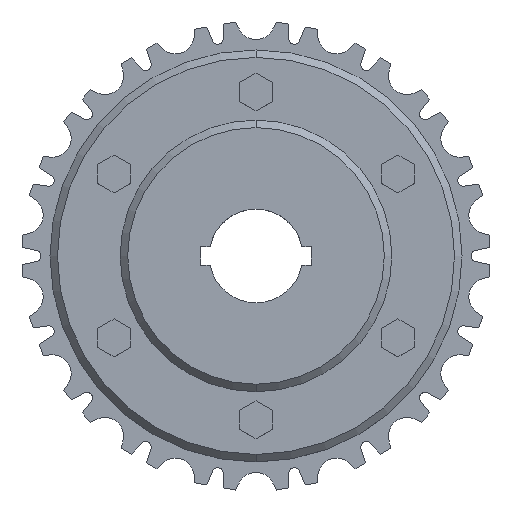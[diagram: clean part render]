
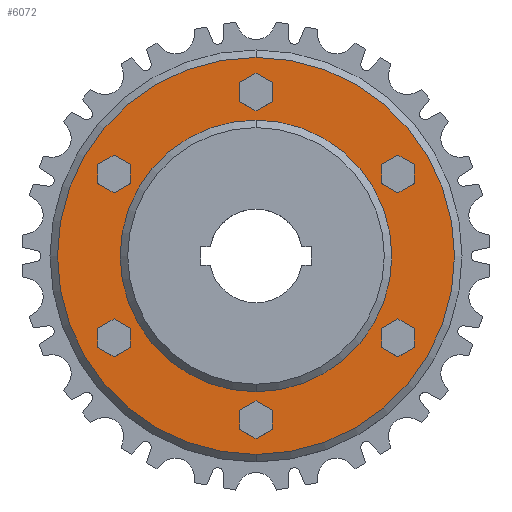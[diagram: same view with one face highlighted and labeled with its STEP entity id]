
A CAD part, top view. The second image highlights one B-rep face of the part: STEP entity #6072.
In plain terms, the highlighted planar face has unit normal (0, 0, 1) as drawn and (0, 1, 0) by its records, which use the part's own axes.
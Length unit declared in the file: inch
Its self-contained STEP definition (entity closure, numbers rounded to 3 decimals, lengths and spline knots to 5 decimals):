
#5568=CARTESIAN_POINT('',(0.,0.095,0.));
#5569=DIRECTION('',(0.,1.,0.));
#5570=DIRECTION('',(1.,0.,0.));
#5571=AXIS2_PLACEMENT_3D('',#5568,#5569,#5570);
#5578=CARTESIAN_POINT('',(0.,0.095,0.));
#5579=DIRECTION('',(0.,-1.,0.));
#5580=DIRECTION('',(1.,0.,0.));
#5581=AXIS2_PLACEMENT_3D('',#5578,#5579,#5580);
#5583=CARTESIAN_POINT('',(0.,0.095,0.));
#5584=DIRECTION('',(0.,-1.,0.));
#5585=DIRECTION('',(-1.,0.,0.));
#5586=AXIS2_PLACEMENT_3D('',#5583,#5584,#5585);
#5588=CARTESIAN_POINT('',(-2.188,0.095,0.));
#5589=DIRECTION('',(0.,-1.,0.));
#5590=DIRECTION('',(1.,0.,0.));
#5591=AXIS2_PLACEMENT_3D('',#5588,#5589,#5590);
#5593=CARTESIAN_POINT('',(-2.188,0.095,0.));
#5594=DIRECTION('',(0.,-1.,0.));
#5595=DIRECTION('',(-1.,0.,0.));
#5596=AXIS2_PLACEMENT_3D('',#5593,#5594,#5595);
#5598=CARTESIAN_POINT('',(-1.094,0.095,-1.89486));
#5599=DIRECTION('',(0.,-1.,0.));
#5600=DIRECTION('',(0.5,0.,0.866));
#5601=AXIS2_PLACEMENT_3D('',#5598,#5599,#5600);
#5603=CARTESIAN_POINT('',(-1.094,0.095,-1.89486));
#5604=DIRECTION('',(0.,-1.,0.));
#5605=DIRECTION('',(-0.5,0.,-0.866));
#5606=AXIS2_PLACEMENT_3D('',#5603,#5604,#5605);
#5608=CARTESIAN_POINT('',(1.094,0.095,-1.89486));
#5609=DIRECTION('',(0.,-1.,0.));
#5610=DIRECTION('',(-0.5,0.,0.866));
#5611=AXIS2_PLACEMENT_3D('',#5608,#5609,#5610);
#5613=CARTESIAN_POINT('',(1.094,0.095,-1.89486));
#5614=DIRECTION('',(0.,-1.,0.));
#5615=DIRECTION('',(0.5,0.,-0.866));
#5616=AXIS2_PLACEMENT_3D('',#5613,#5614,#5615);
#5618=CARTESIAN_POINT('',(2.188,0.095,0.));
#5619=DIRECTION('',(0.,-1.,0.));
#5620=DIRECTION('',(-1.,0.,0.));
#5621=AXIS2_PLACEMENT_3D('',#5618,#5619,#5620);
#5623=CARTESIAN_POINT('',(2.188,0.095,0.));
#5624=DIRECTION('',(0.,-1.,0.));
#5625=DIRECTION('',(1.,0.,0.));
#5626=AXIS2_PLACEMENT_3D('',#5623,#5624,#5625);
#5628=CARTESIAN_POINT('',(1.094,0.095,1.89486));
#5629=DIRECTION('',(0.,-1.,0.));
#5630=DIRECTION('',(-0.5,0.,-0.866));
#5631=AXIS2_PLACEMENT_3D('',#5628,#5629,#5630);
#5633=CARTESIAN_POINT('',(1.094,0.095,1.89486));
#5634=DIRECTION('',(0.,-1.,0.));
#5635=DIRECTION('',(0.5,0.,0.866));
#5636=AXIS2_PLACEMENT_3D('',#5633,#5634,#5635);
#5638=CARTESIAN_POINT('',(-1.094,0.095,1.89486));
#5639=DIRECTION('',(0.,-1.,0.));
#5640=DIRECTION('',(0.5,0.,-0.866));
#5641=AXIS2_PLACEMENT_3D('',#5638,#5639,#5640);
#5643=CARTESIAN_POINT('',(-1.094,0.095,1.89486));
#5644=DIRECTION('',(0.,-1.,0.));
#5645=DIRECTION('',(-0.5,0.,0.866));
#5646=AXIS2_PLACEMENT_3D('',#5643,#5644,#5645);
#5750=CARTESIAN_POINT('',(0.,0.095,0.));
#5751=DIRECTION('',(0.,1.,0.));
#5752=DIRECTION('',(-1.,0.,0.));
#5753=AXIS2_PLACEMENT_3D('',#5750,#5751,#5752);
#5824=CARTESIAN_POINT('',(1.813,0.095,0.));
#5825=CARTESIAN_POINT('',(-1.813,0.095,0.));
#5826=VERTEX_POINT('',#5824);
#5827=VERTEX_POINT('',#5825);
#5828=CARTESIAN_POINT('',(2.65,0.095,0.));
#5829=CARTESIAN_POINT('',(-2.65,0.095,0.));
#5830=VERTEX_POINT('',#5828);
#5831=VERTEX_POINT('',#5829);
#5840=CARTESIAN_POINT('',(-2.061,0.095,0.));
#5841=CARTESIAN_POINT('',(-2.315,0.095,0.));
#5842=VERTEX_POINT('',#5840);
#5843=VERTEX_POINT('',#5841);
#5872=CARTESIAN_POINT('',(-1.0305,0.095,-1.78488));
#5873=CARTESIAN_POINT('',(-1.1575,0.095,-2.00485));
#5874=VERTEX_POINT('',#5872);
#5875=VERTEX_POINT('',#5873);
#5876=CARTESIAN_POINT('',(1.0305,0.095,-1.78488));
#5877=CARTESIAN_POINT('',(1.1575,0.095,-2.00485));
#5878=VERTEX_POINT('',#5876);
#5879=VERTEX_POINT('',#5877);
#5880=CARTESIAN_POINT('',(2.061,0.095,0.));
#5881=CARTESIAN_POINT('',(2.315,0.095,0.));
#5882=VERTEX_POINT('',#5880);
#5883=VERTEX_POINT('',#5881);
#5884=CARTESIAN_POINT('',(1.0305,0.095,1.78488));
#5885=CARTESIAN_POINT('',(1.1575,0.095,2.00485));
#5886=VERTEX_POINT('',#5884);
#5887=VERTEX_POINT('',#5885);
#5888=CARTESIAN_POINT('',(-1.0305,0.095,1.78488));
#5889=CARTESIAN_POINT('',(-1.1575,0.095,2.00485));
#5890=VERTEX_POINT('',#5888);
#5891=VERTEX_POINT('',#5889);
#6020=CARTESIAN_POINT('',(0.,0.095,0.));
#6021=DIRECTION('',(0.,1.,0.));
#6022=DIRECTION('',(1.,0.,0.));
#6023=AXIS2_PLACEMENT_3D('',#6020,#6021,#6022);
#6024=PLANE('',#6023);
#6025=ORIENTED_EDGE('',*,*,#6010,.F.);
#6027=ORIENTED_EDGE('',*,*,#6026,.F.);
#6028=EDGE_LOOP('',(#6025,#6027));
#6029=FACE_OUTER_BOUND('',#6028,.F.);
#6031=ORIENTED_EDGE('',*,*,#6030,.F.);
#6033=ORIENTED_EDGE('',*,*,#6032,.F.);
#6034=EDGE_LOOP('',(#6031,#6033));
#6035=FACE_BOUND('',#6034,.F.);
#6037=ORIENTED_EDGE('',*,*,#6036,.F.);
#6039=ORIENTED_EDGE('',*,*,#6038,.F.);
#6040=EDGE_LOOP('',(#6037,#6039));
#6041=FACE_BOUND('',#6040,.F.);
#6043=ORIENTED_EDGE('',*,*,#6042,.F.);
#6045=ORIENTED_EDGE('',*,*,#6044,.F.);
#6046=EDGE_LOOP('',(#6043,#6045));
#6047=FACE_BOUND('',#6046,.F.);
#6049=ORIENTED_EDGE('',*,*,#6048,.F.);
#6051=ORIENTED_EDGE('',*,*,#6050,.F.);
#6052=EDGE_LOOP('',(#6049,#6051));
#6053=FACE_BOUND('',#6052,.F.);
#6055=ORIENTED_EDGE('',*,*,#6054,.F.);
#6057=ORIENTED_EDGE('',*,*,#6056,.F.);
#6058=EDGE_LOOP('',(#6055,#6057));
#6059=FACE_BOUND('',#6058,.F.);
#6061=ORIENTED_EDGE('',*,*,#6060,.F.);
#6063=ORIENTED_EDGE('',*,*,#6062,.F.);
#6064=EDGE_LOOP('',(#6061,#6063));
#6065=FACE_BOUND('',#6064,.F.);
#6067=ORIENTED_EDGE('',*,*,#6066,.F.);
#6069=ORIENTED_EDGE('',*,*,#6068,.F.);
#6070=EDGE_LOOP('',(#6067,#6069));
#6071=FACE_BOUND('',#6070,.F.);
#6072=ADVANCED_FACE('',(#6029,#6035,#6041,#6047,#6053,#6059,#6065,#6071),#6024,
.T.);
#5572=CIRCLE('',#5571,2.65);
#5582=CIRCLE('',#5581,1.813);
#5587=CIRCLE('',#5586,1.813);
#5592=CIRCLE('',#5591,0.127);
#5597=CIRCLE('',#5596,0.127);
#5602=CIRCLE('',#5601,0.127);
#5607=CIRCLE('',#5606,0.127);
#5612=CIRCLE('',#5611,0.127);
#5617=CIRCLE('',#5616,0.127);
#5622=CIRCLE('',#5621,0.127);
#5627=CIRCLE('',#5626,0.127);
#5632=CIRCLE('',#5631,0.127);
#5637=CIRCLE('',#5636,0.127);
#5642=CIRCLE('',#5641,0.127);
#5647=CIRCLE('',#5646,0.127);
#5754=CIRCLE('',#5753,2.65);
#6010=EDGE_CURVE('',#5830,#5831,#5572,.T.);
#6026=EDGE_CURVE('',#5831,#5830,#5754,.T.);
#6030=EDGE_CURVE('',#5826,#5827,#5582,.T.);
#6032=EDGE_CURVE('',#5827,#5826,#5587,.T.);
#6036=EDGE_CURVE('',#5842,#5843,#5592,.T.);
#6038=EDGE_CURVE('',#5843,#5842,#5597,.T.);
#6042=EDGE_CURVE('',#5874,#5875,#5602,.T.);
#6044=EDGE_CURVE('',#5875,#5874,#5607,.T.);
#6048=EDGE_CURVE('',#5878,#5879,#5612,.T.);
#6050=EDGE_CURVE('',#5879,#5878,#5617,.T.);
#6054=EDGE_CURVE('',#5882,#5883,#5622,.T.);
#6056=EDGE_CURVE('',#5883,#5882,#5627,.T.);
#6060=EDGE_CURVE('',#5886,#5887,#5632,.T.);
#6062=EDGE_CURVE('',#5887,#5886,#5637,.T.);
#6066=EDGE_CURVE('',#5890,#5891,#5642,.T.);
#6068=EDGE_CURVE('',#5891,#5890,#5647,.T.);
